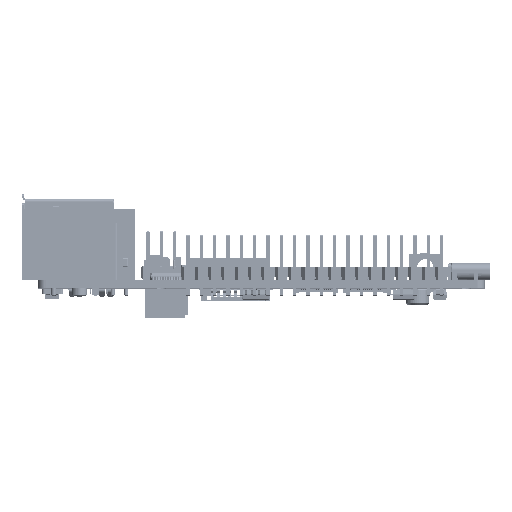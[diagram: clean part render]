
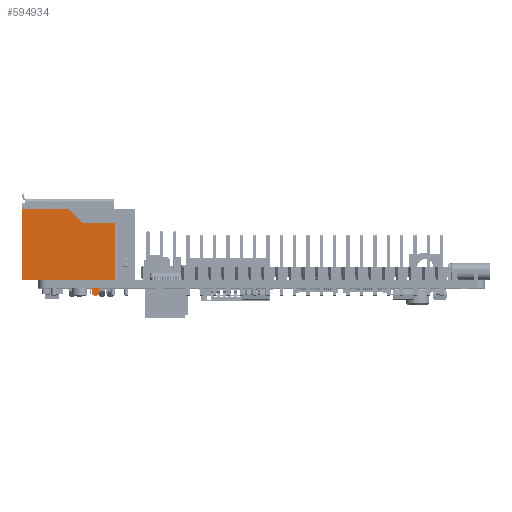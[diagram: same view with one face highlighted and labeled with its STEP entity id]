
A CAD part, top view. The second image highlights one B-rep face of the part: STEP entity #594934.
In plain terms, the highlighted planar face has unit normal (0, 0, 1) as drawn and (1, 0, 0) by its records, which use the part's own axes.
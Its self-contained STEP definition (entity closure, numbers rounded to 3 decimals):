
#1391 = CARTESIAN_POINT ( 'NONE',  ( 15.88, 0., 0. ) ) ;
#3763 = DIRECTION ( 'NONE',  ( 0., 0., -1. ) ) ;
#10784 = CARTESIAN_POINT ( 'NONE',  ( 15.88, -15.75, -14.72 ) ) ;
#12376 = VECTOR ( 'NONE', #464401, 1000. ) ;
#15159 = DIRECTION ( 'NONE',  ( 0., 0., -1. ) ) ;
#47855 = VERTEX_POINT ( 'NONE', #532311 ) ;
#57708 = DIRECTION ( 'NONE',  ( 0., 0., -1. ) ) ;
#60618 = EDGE_CURVE ( 'NONE', #242147, #196859, #196724, .T. ) ;
#64241 = CARTESIAN_POINT ( 'NONE',  ( 15.88, -13.5, 0. ) ) ;
#80165 = VECTOR ( 'NONE', #212981, 1000. ) ;
#82745 = ORIENTED_EDGE ( 'NONE', *, *, #537341, .T. ) ;
#110091 = VECTOR ( 'NONE', #211852, 1000. ) ;
#124125 = CARTESIAN_POINT ( 'NONE',  ( 15.88, -13.5, -14.72 ) ) ;
#136544 = CARTESIAN_POINT ( 'NONE',  ( 15.88, -2.72, -17.748 ) ) ;
#171206 = VECTOR ( 'NONE', #635270, 1000. ) ;
#196724 = LINE ( 'NONE', #262083, #12376 ) ;
#196859 = VERTEX_POINT ( 'NONE', #376825 ) ;
#198829 = EDGE_CURVE ( 'NONE', #423516, #404525, #513730, .T. ) ;
#199016 = VERTEX_POINT ( 'NONE', #356415 ) ;
#201047 = CARTESIAN_POINT ( 'NONE',  ( 15.88, -13.5, 0. ) ) ;
#206968 = VECTOR ( 'NONE', #15159, 1000. ) ;
#211852 = DIRECTION ( 'NONE',  ( 0., 1., 0. ) ) ;
#212981 = DIRECTION ( 'NONE',  ( 0., 1., 0. ) ) ;
#238470 = CARTESIAN_POINT ( 'NONE',  ( 15.88, -2.72, -17.748 ) ) ;
#242147 = VERTEX_POINT ( 'NONE', #291665 ) ;
#243439 = ORIENTED_EDGE ( 'NONE', *, *, #399668, .F. ) ;
#250091 = EDGE_CURVE ( 'NONE', #199016, #506823, #492685, .T. ) ;
#255807 = LINE ( 'NONE', #458120, #559115 ) ;
#258804 = ORIENTED_EDGE ( 'NONE', *, *, #198829, .F. ) ;
#261744 = CARTESIAN_POINT ( 'NONE',  ( 15.88, -13.5, 0. ) ) ;
#262083 = CARTESIAN_POINT ( 'NONE',  ( 15.88, -13.5, -13.22 ) ) ;
#266108 = ORIENTED_EDGE ( 'NONE', *, *, #635486, .T. ) ;
#276910 = DIRECTION ( 'NONE',  ( 0., 0., -1. ) ) ;
#281725 = LINE ( 'NONE', #238470, #345736 ) ;
#285194 = DIRECTION ( 'NONE',  ( 0., 0., -1. ) ) ;
#288461 = CARTESIAN_POINT ( 'NONE',  ( 15.88, -13.5, 0. ) ) ;
#291665 = CARTESIAN_POINT ( 'NONE',  ( 15.88, -13.5, -13.22 ) ) ;
#300713 = AXIS2_PLACEMENT_3D ( 'NONE', #64241, #512042, #57708 ) ;
#305602 = EDGE_CURVE ( 'NONE', #621085, #603444, #281725, .T. ) ;
#331032 = ORIENTED_EDGE ( 'NONE', *, *, #250091, .F. ) ;
#331469 = VECTOR ( 'NONE', #595745, 1000. ) ;
#333093 = ORIENTED_EDGE ( 'NONE', *, *, #60618, .T. ) ;
#333232 = CARTESIAN_POINT ( 'NONE',  ( 15.88, -15.75, -13.97 ) ) ;
#345152 = ORIENTED_EDGE ( 'NONE', *, *, #305602, .T. ) ;
#345736 = VECTOR ( 'NONE', #540260, 1000. ) ;
#350321 = EDGE_CURVE ( 'NONE', #47855, #373595, #362387, .T. ) ;
#356415 = CARTESIAN_POINT ( 'NONE',  ( 15.88, 0., -8.763 ) ) ;
#362387 = LINE ( 'NONE', #10784, #80165 ) ;
#373595 = VERTEX_POINT ( 'NONE', #124125 ) ;
#376825 = CARTESIAN_POINT ( 'NONE',  ( 15.88, -15.75, -13.22 ) ) ;
#378414 = CIRCLE ( 'NONE', #642922, 0.75 ) ;
#380681 = EDGE_CURVE ( 'NONE', #423516, #242147, #537172, .T. ) ;
#392954 = ORIENTED_EDGE ( 'NONE', *, *, #380681, .T. ) ;
#394363 = EDGE_CURVE ( 'NONE', #506823, #603444, #615332, .T. ) ;
#399668 = EDGE_CURVE ( 'NONE', #404525, #199016, #255807, .T. ) ;
#404525 = VERTEX_POINT ( 'NONE', #1391 ) ;
#419890 = CARTESIAN_POINT ( 'NONE',  ( 15.88, -2.72, -11.529 ) ) ;
#423516 = VERTEX_POINT ( 'NONE', #591873 ) ;
#424710 = ORIENTED_EDGE ( 'NONE', *, *, #350321, .T. ) ;
#458120 = CARTESIAN_POINT ( 'NONE',  ( 15.88, 0., 0. ) ) ;
#464401 = DIRECTION ( 'NONE',  ( 0., -1., 0. ) ) ;
#489442 = CARTESIAN_POINT ( 'NONE',  ( 15.88, -2.257, -11.058 ) ) ;
#492685 = LINE ( 'NONE', #489442, #171206 ) ;
#506149 = CARTESIAN_POINT ( 'NONE',  ( 15.88, -2.72, 0. ) ) ;
#506823 = VERTEX_POINT ( 'NONE', #419890 ) ;
#512042 = DIRECTION ( 'NONE',  ( 1., 0., 0. ) ) ;
#513730 = LINE ( 'NONE', #261744, #110091 ) ;
#532311 = CARTESIAN_POINT ( 'NONE',  ( 15.88, -15.75, -14.72 ) ) ;
#535421 = DIRECTION ( 'NONE',  ( 1., 0., 0. ) ) ;
#537172 = LINE ( 'NONE', #288461, #594394 ) ;
#537341 = EDGE_CURVE ( 'NONE', #196859, #47855, #378414, .T. ) ;
#540260 = DIRECTION ( 'NONE',  ( 0., 1., 0. ) ) ;
#552763 = EDGE_LOOP ( 'NONE', ( #266108, #345152, #654383, #331032, #243439, #258804, #392954, #333093, #82745, #424710 ) ) ;
#559115 = VECTOR ( 'NONE', #3763, 1000. ) ;
#561713 = FACE_OUTER_BOUND ( 'NONE', #552763, .T. ) ;
#579301 = CARTESIAN_POINT ( 'NONE',  ( 15.88, -13.5, -17.748 ) ) ;
#591873 = CARTESIAN_POINT ( 'NONE',  ( 15.88, -13.5, 0. ) ) ;
#594394 = VECTOR ( 'NONE', #285194, 1000. ) ;
#594934 = ADVANCED_FACE ( 'NONE', ( #561713 ), #614674, .T. ) ;
#595745 = DIRECTION ( 'NONE',  ( 0., 0., -1. ) ) ;
#603444 = VERTEX_POINT ( 'NONE', #136544 ) ;
#614674 = PLANE ( 'NONE',  #300713 ) ;
#615332 = LINE ( 'NONE', #506149, #206968 ) ;
#621085 = VERTEX_POINT ( 'NONE', #579301 ) ;
#635270 = DIRECTION ( 'NONE',  ( 0., -0.701, -0.713 ) ) ;
#635486 = EDGE_CURVE ( 'NONE', #373595, #621085, #655314, .T. ) ;
#642922 = AXIS2_PLACEMENT_3D ( 'NONE', #333232, #535421, #276910 ) ;
#654383 = ORIENTED_EDGE ( 'NONE', *, *, #394363, .F. ) ;
#655314 = LINE ( 'NONE', #201047, #331469 ) ;
